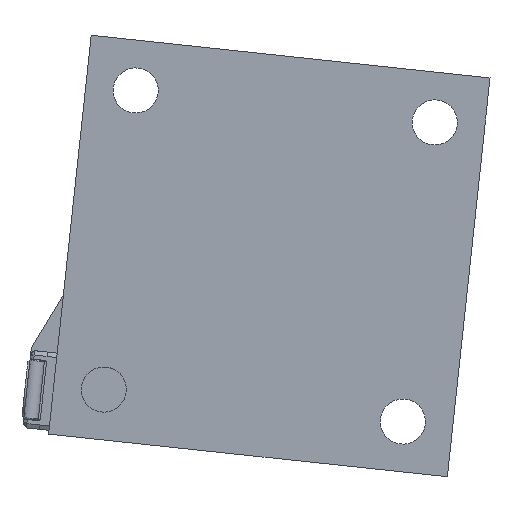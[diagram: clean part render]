
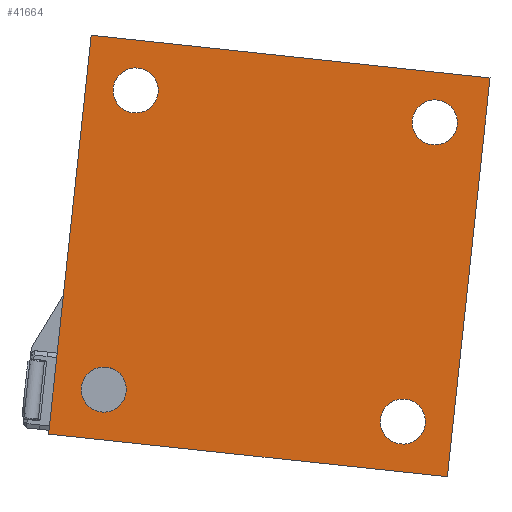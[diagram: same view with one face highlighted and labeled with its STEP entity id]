
A CAD part, left-side view. The second image highlights one B-rep face of the part: STEP entity #41664.
In plain terms, the highlighted planar face has unit normal (-1, 0, 0).
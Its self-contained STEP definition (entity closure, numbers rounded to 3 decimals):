
#2097=FACE_BOUND('',#6348,.T.);
#2098=FACE_BOUND('',#6349,.T.);
#2099=FACE_BOUND('',#6350,.T.);
#2100=FACE_BOUND('',#6351,.T.);
#4144=FACE_OUTER_BOUND('',#6347,.T.);
#6347=EDGE_LOOP('',(#36028,#36029,#36030,#36031));
#6348=EDGE_LOOP('',(#36032));
#6349=EDGE_LOOP('',(#36033));
#6350=EDGE_LOOP('',(#36034));
#6351=EDGE_LOOP('',(#36035));
#7666=CIRCLE('',#45160,9.);
#7667=CIRCLE('',#45162,9.);
#7668=CIRCLE('',#45164,9.);
#7669=CIRCLE('',#45166,9.);
#11250=LINE('',#80990,#14834);
#11253=LINE('',#80995,#14837);
#11255=LINE('',#80999,#14839);
#11257=LINE('',#81002,#14841);
#14834=VECTOR('',#55650,10.);
#14837=VECTOR('',#55655,10.);
#14839=VECTOR('',#55659,10.);
#14841=VECTOR('',#55663,10.);
#18624=VERTEX_POINT('',#80972);
#18625=VERTEX_POINT('',#80976);
#18626=VERTEX_POINT('',#80980);
#18627=VERTEX_POINT('',#80984);
#18628=VERTEX_POINT('',#80988);
#18629=VERTEX_POINT('',#80989);
#18630=VERTEX_POINT('',#80994);
#18631=VERTEX_POINT('',#80998);
#24455=EDGE_CURVE('',#18624,#18624,#7666,.T.);
#24457=EDGE_CURVE('',#18625,#18625,#7667,.T.);
#24459=EDGE_CURVE('',#18626,#18626,#7668,.T.);
#24461=EDGE_CURVE('',#18627,#18627,#7669,.T.);
#24462=EDGE_CURVE('',#18628,#18629,#11250,.T.);
#24465=EDGE_CURVE('',#18629,#18630,#11253,.T.);
#24467=EDGE_CURVE('',#18630,#18631,#11255,.T.);
#24469=EDGE_CURVE('',#18631,#18628,#11257,.T.);
#36028=ORIENTED_EDGE('',*,*,#24469,.T.);
#36029=ORIENTED_EDGE('',*,*,#24462,.T.);
#36030=ORIENTED_EDGE('',*,*,#24465,.T.);
#36031=ORIENTED_EDGE('',*,*,#24467,.T.);
#36032=ORIENTED_EDGE('',*,*,#24455,.T.);
#36033=ORIENTED_EDGE('',*,*,#24457,.T.);
#36034=ORIENTED_EDGE('',*,*,#24459,.T.);
#36035=ORIENTED_EDGE('',*,*,#24461,.T.);
#37498=PLANE('',#45171);
#41664=ADVANCED_FACE('',(#4144,#2097,#2098,#2099,#2100),#37498,.F.);
#45160=AXIS2_PLACEMENT_3D('',#80974,#55631,#55632);
#45162=AXIS2_PLACEMENT_3D('',#80978,#55636,#55637);
#45164=AXIS2_PLACEMENT_3D('',#80982,#55641,#55642);
#45166=AXIS2_PLACEMENT_3D('',#80986,#55646,#55647);
#45171=AXIS2_PLACEMENT_3D('',#81003,#55664,#55665);
#55631=DIRECTION('center_axis',(1.,0.,0.));
#55632=DIRECTION('ref_axis',(0.,0.106,-0.994));
#55636=DIRECTION('center_axis',(1.,0.,0.));
#55637=DIRECTION('ref_axis',(0.,0.106,-0.994));
#55641=DIRECTION('center_axis',(1.,0.,0.));
#55642=DIRECTION('ref_axis',(0.,0.106,-0.994));
#55646=DIRECTION('center_axis',(1.,0.,0.));
#55647=DIRECTION('ref_axis',(0.,0.106,-0.994));
#55650=DIRECTION('',(0.,-0.994,-0.106));
#55655=DIRECTION('',(0.,-0.106,0.994));
#55659=DIRECTION('',(0.,0.994,0.106));
#55663=DIRECTION('',(0.,0.106,-0.994));
#55664=DIRECTION('center_axis',(1.,0.,0.));
#55665=DIRECTION('ref_axis',(0.,0.106,-0.994));
#80972=CARTESIAN_POINT('',(-191.581,-52.926,-57.183));
#80974=CARTESIAN_POINT('Origin',(-191.581,-51.969,-66.132));
#80976=CARTESIAN_POINT('',(-191.581,53.639,74.893));
#80978=CARTESIAN_POINT('Origin',(-191.581,54.595,65.944));
#80980=CARTESIAN_POINT('',(-191.581,-65.682,62.137));
#80982=CARTESIAN_POINT('Origin',(-191.581,-64.725,53.188));
#80984=CARTESIAN_POINT('',(-191.581,66.394,-44.427));
#80986=CARTESIAN_POINT('Origin',(-191.581,67.351,-53.376));
#80988=CARTESIAN_POINT('',(-191.581,89.364,-71.137));
#80989=CARTESIAN_POINT('',(-191.581,-69.73,-88.145));
#80990=CARTESIAN_POINT('',(-191.581,89.364,-71.137));
#80994=CARTESIAN_POINT('',(-191.581,-86.738,70.949));
#80995=CARTESIAN_POINT('',(-191.581,-69.73,-88.145));
#80998=CARTESIAN_POINT('',(-191.581,72.356,87.956));
#80999=CARTESIAN_POINT('',(-191.581,-86.738,70.949));
#81002=CARTESIAN_POINT('',(-191.581,72.356,87.956));
#81003=CARTESIAN_POINT('Origin',(-191.581,1.313,-0.094));
